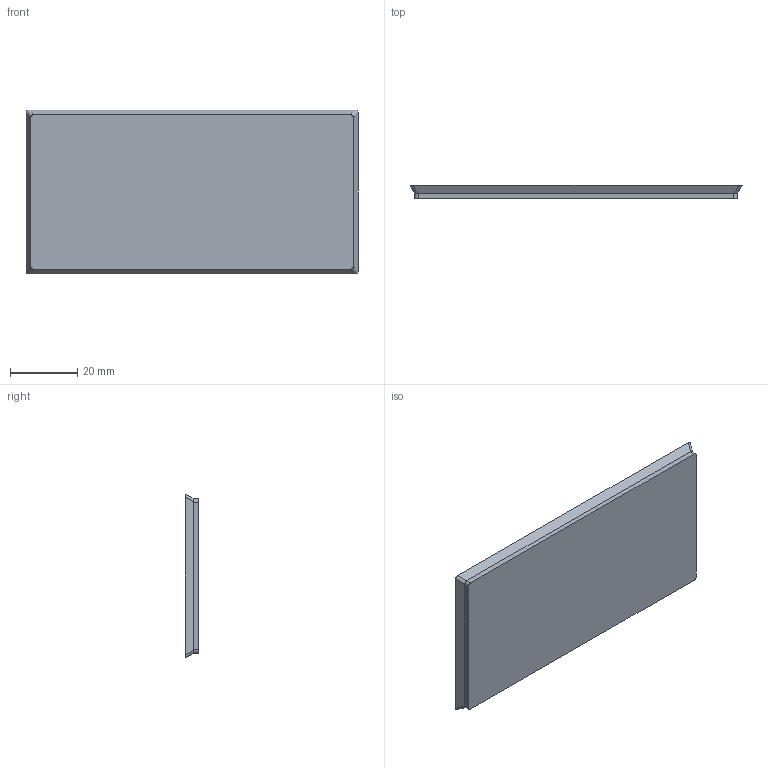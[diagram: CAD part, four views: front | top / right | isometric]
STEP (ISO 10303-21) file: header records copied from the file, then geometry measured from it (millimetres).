
FILE_DESCRIPTION (( 'STEP AP214' ), '1' );
FILE_NAME ('PP-BambooFeeder-MP1-Panel-L100W50-BLANK.STEP', '2023-03-23T22:13:11', ( 'PC' ), ( 'Microsoft' ), 'SwSTEP 2.0', 'SolidWorks 2018', '' );
FILE_SCHEMA (( 'AUTOMOTIVE_DESIGN' ));
Length unit declared in the file: millimetre
Products named in the file (1): PP-BambooFeeder-MP1-Panel-L100W50-BLANK
Bounding box: 98.8 x 4 x 48.8 mm (x, y, z)
Volume: 18156.1 mm3; surface area: 10491.9 mm2
Topology: 1 solids, 1 shells, 18 faces, 48 edges, 32 vertices
Faces by surface type: plane 10, cylinder 8
Entity records: 590 total; most frequent: CARTESIAN_POINT 147, ORIENTED_EDGE 96, DIRECTION 74, EDGE_CURVE 48, VERTEX_POINT 32, LINE 28, VECTOR 28, AXIS2_PLACEMENT_3D 23
